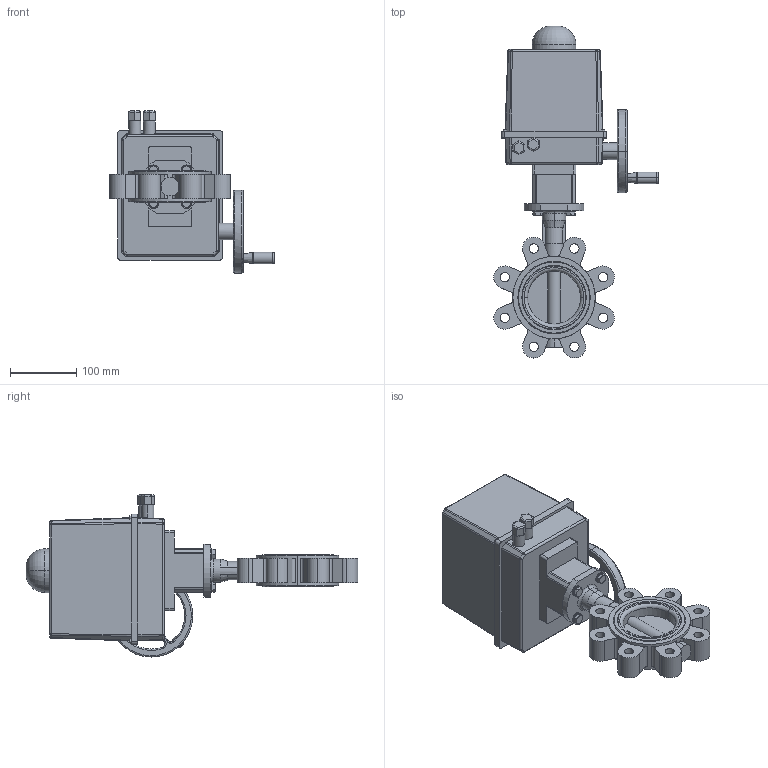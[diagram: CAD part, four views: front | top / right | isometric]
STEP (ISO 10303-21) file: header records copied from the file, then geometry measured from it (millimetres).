
FILE_DESCRIPTION (( 'STEP AP214' ), '1' );
FILE_NAME ('67662.step', '2020-10-26T06:44:23', ( '' ), ( '' ), 'SwSTEP 2.0', 'SolidWorks 2019', '' );
FILE_SCHEMA (( 'AUTOMOTIVE_DESIGN' ));
Length unit declared in the file: millimetre
Products named in the file (6): U-Scheibe DIN 125 A_M8; Steckkupplung PSQ 103_PSQ 103 VK-11; 6kt-Schr DIN 933_M8x25; PSQ 103_PSQ 103-36-24VDC-F07; TL20-0080_M01; 67662
Assembly tree (11 placements, depth 2):
  67662
    TL20-0080_M01
    PSQ 103_PSQ 103-36-24VDC-F07
    Steckkupplung PSQ 103_PSQ 103 VK-11
    6kt-Schr DIN 933_M8x25  x4
    U-Scheibe DIN 125 A_M8  x4
Bounding box: 247.91 x 499.91 x 244 mm (x, y, z)
Volume: 5853019.9 mm3; surface area: 362137.1 mm2
Topology: 11 solids, 11 shells, 848 faces, 2174 edges, 1352 vertices
Faces by surface type: cylinder 366, plane 338, cone 64, torus 60, sphere 16, bspline 4
Entity records: 27228 total; most frequent: CARTESIAN_POINT 4791, DIRECTION 4166, ORIENTED_EDGE 3868, EDGE_CURVE 1934, AXIS2_PLACEMENT_3D 1577, VERTEX_POINT 1232, LINE 1012, VECTOR 1012
